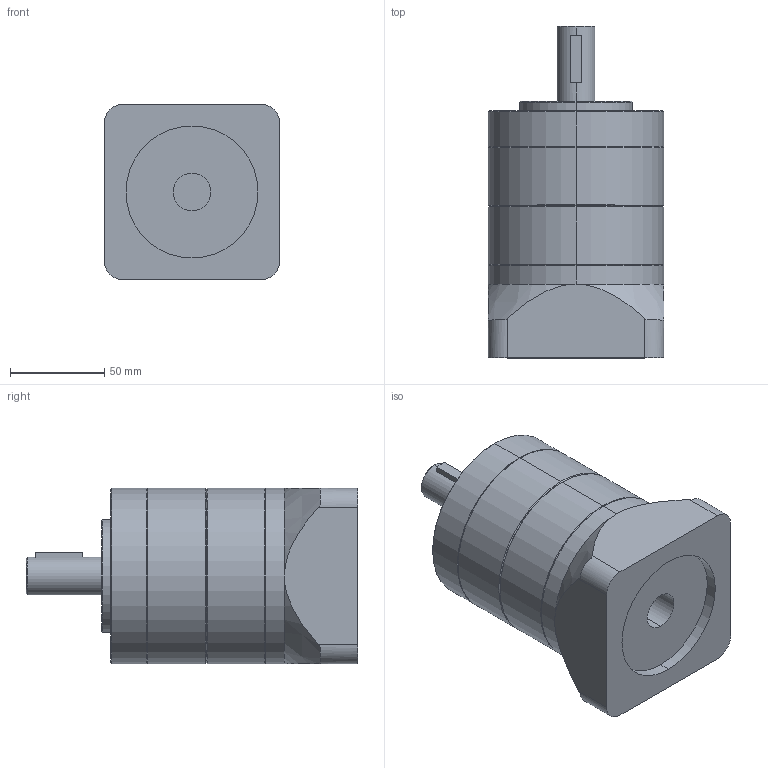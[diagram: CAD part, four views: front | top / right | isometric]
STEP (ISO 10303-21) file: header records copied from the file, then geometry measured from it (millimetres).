
FILE_DESCRIPTION (( 'STEP AP214' ), '1' );
FILE_NAME ('N93-L2.STEP', '2019-10-04T02:39:20', ( '' ), ( '' ), 'SwSTEP 2.0', 'SolidWorks 2018', '' );
FILE_SCHEMA (( 'AUTOMOTIVE_DESIGN' ));
Length unit declared in the file: millimetre
Products named in the file (1): N93-L2
Bounding box: 93 x 176 x 93 mm (x, y, z)
Volume: 935374.3 mm3; surface area: 104868.1 mm2
Topology: 4 solids, 4 shells, 83 faces, 183 edges, 107 vertices
Faces by surface type: cylinder 30, cone 28, plane 25
Entity records: 2510 total; most frequent: CARTESIAN_POINT 524, DIRECTION 409, ORIENTED_EDGE 346, EDGE_CURVE 173, AXIS2_PLACEMENT_3D 168, VERTEX_POINT 107, EDGE_LOOP 92, CIRCLE 84
